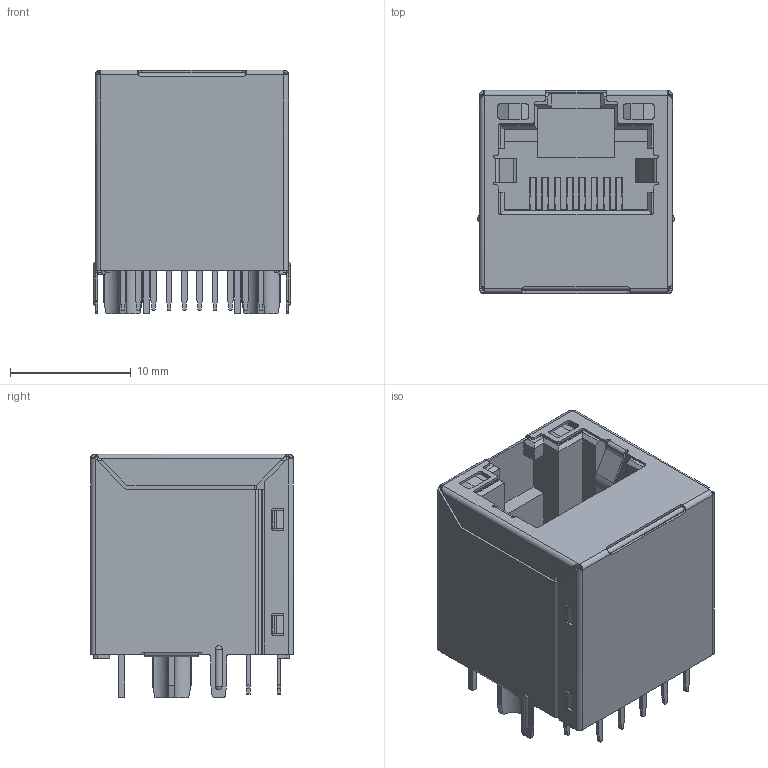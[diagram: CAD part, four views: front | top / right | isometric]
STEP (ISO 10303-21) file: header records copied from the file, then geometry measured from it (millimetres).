
FILE_DESCRIPTION((''),'2;1');
FILE_NAME('DGKYD511Q337AB2A2DB1057','2022-11-10T09:54:01',('Administrator'),(''),'CREO PARAMETRIC BY PTC INC, 2019010','CREO PARAMETRIC BY PTC INC, 2019010','');
FILE_SCHEMA(('CONFIG_CONTROL_DESIGN','SHAPE_APPEARANCE_LAYERS_GROUPS'));
Length unit declared in the file: millimetre
Products named in the file (1): DGKYD511Q337AB2A2DB1057
Bounding box: 16.3 x 16.82 x 20.2 mm (x, y, z)
Volume: 2812.8 mm3; surface area: 6150.7 mm2
Topology: 1 solids, 1 shells, 1362 faces, 4107 edges, 2677 vertices
Faces by surface type: plane 1109, cylinder 236, bspline 9, sphere 8
Entity records: 54100 total; most frequent: CARTESIAN_POINT 8818, ORIENTED_EDGE 8198, DIRECTION 7197, EDGE_CURVE 4099, VECTOR 3547, LINE 3547, VERTEX_POINT 2677, AXIS2_PLACEMENT_3D 1825
